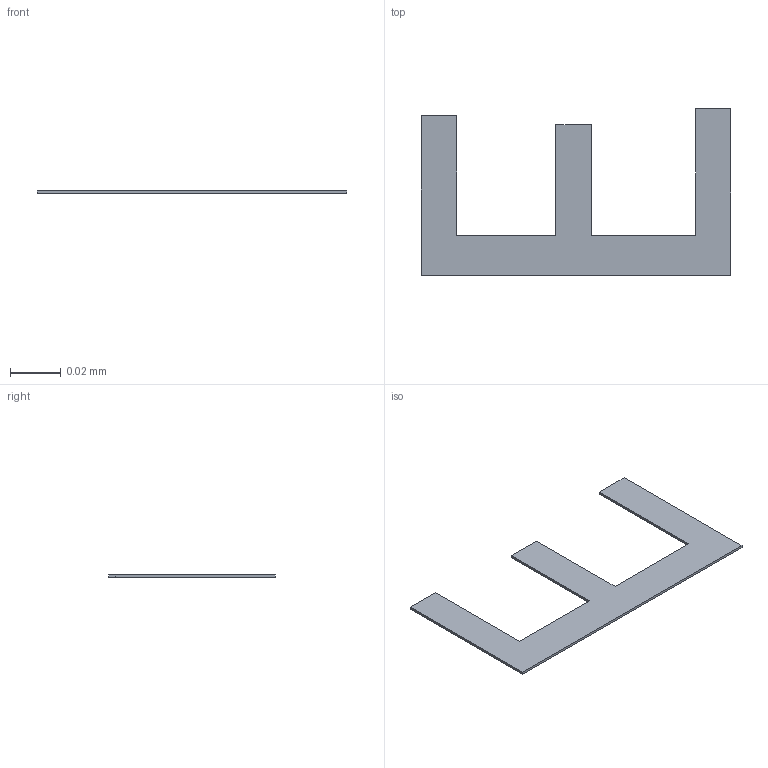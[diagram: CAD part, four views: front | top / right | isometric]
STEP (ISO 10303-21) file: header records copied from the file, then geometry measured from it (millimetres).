
FILE_DESCRIPTION(/* description */ ('STEP AP242 Edition 2','CAx-IF Rec.Pracs.---Representation and Presentation of Product Manufacturing Information (PMI)---4.0---2014-10-13','CAx-IF Rec.Pracs.---3D Tessellated Geometry---0.4---2014-09-14','2;1','CAx-IF Rec.Pracs.---User Defined Attributes---1.5---2016-08-15'),/* implementation_level */ '2;1');
FILE_NAME(/* name */ 'Assembly 1 - SOT-223-3_L6.5-W3.4-P2.30-LS7.0-BR~SOT-223-4P_L6.5-W3.5-H1.6-LS7.0-P2.30~nxQB (3)',/* time_stamp */ '2026-04-02T09:55:22Z',/* author */ (''),/* organization */ (''),/* preprocessor_version */ 'ST-DEVELOPER v20',/* originating_system */ 'ONSHAPE BY PTC INC, 1.212',/* authorisation */ ' ');
FILE_SCHEMA (('AP242_MANAGED_MODEL_BASED_3D_ENGINEERING_MIM_LF { 1 0 10303 442 3 1 4 }'));
Length unit declared in the file: metre
Products named in the file (1): SOT-223-3_L6.5-W3.4-P2.30-LS7.0-BR~SOT-223-4P_L6.5-W3.5-H1.6-LS7.0-P2.
30~nxQB
Bounding box: 0.12 x 0.07 x 0 mm (x, y, z)
Volume: 0 mm3; surface area: 0 mm2
Topology: 1 solids, 1 shells, 14 faces, 36 edges, 24 vertices
Faces by surface type: plane 14
Entity records: 541 total; most frequent: CARTESIAN_POINT 75, ORIENTED_EDGE 72, DIRECTION 66, EDGE_CURVE 36, LINE 36, VECTOR 36, VERTEX_POINT 24, PRESENTATION_STYLE_ASSIGNMENT 15
